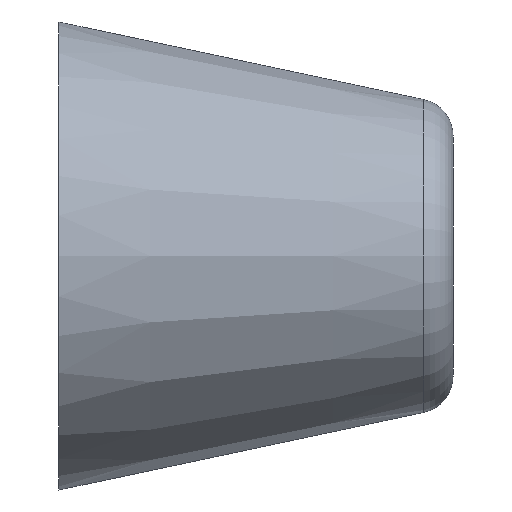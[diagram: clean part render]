
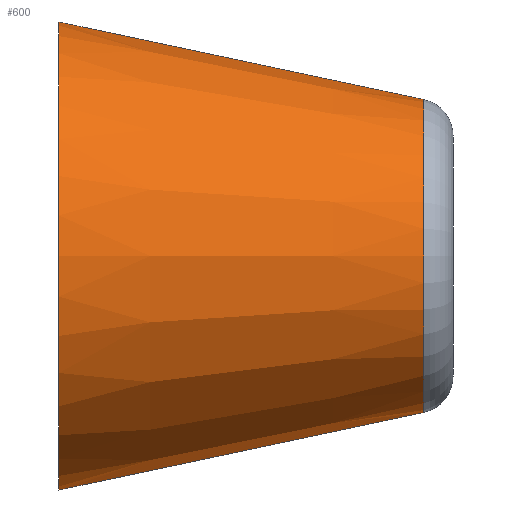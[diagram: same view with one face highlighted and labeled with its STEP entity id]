
A CAD part, left-side view. The second image highlights one B-rep face of the part: STEP entity #600.
In plain terms, the highlighted conical face has half-angle 11.997 degrees and reference radius 6.1 mm.
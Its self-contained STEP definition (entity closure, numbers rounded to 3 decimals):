
#1 = VERTEX_POINT ( 'NONE', #150 ) ;
#14 = AXIS2_PLACEMENT_3D ( 'NONE', #295, #298, #335 ) ;
#78 = DIRECTION ( 'NONE',  ( 0., 0., -1. ) ) ;
#87 = ORIENTED_EDGE ( 'NONE', *, *, #122, .T. ) ;
#88 = EDGE_CURVE ( 'NONE', #147, #237, #171, .T. ) ;
#122 = EDGE_CURVE ( 'NONE', #418, #1, #135, .T. ) ;
#124 = CARTESIAN_POINT ( 'NONE',  ( 0., 0., 6.1 ) ) ;
#135 = LINE ( 'NONE', #124, #231 ) ;
#147 = VERTEX_POINT ( 'NONE', #271 ) ;
#150 = CARTESIAN_POINT ( 'NONE',  ( 0., 16., 9.5 ) ) ;
#171 = LINE ( 'NONE', #319, #453 ) ;
#177 = CIRCLE ( 'NONE', #14, 9.5 ) ;
#205 = ORIENTED_EDGE ( 'NONE', *, *, #309, .T. ) ;
#220 = EDGE_CURVE ( 'NONE', #1, #237, #177, .T. ) ;
#231 = VECTOR ( 'NONE', #513, 1000. ) ;
#237 = VERTEX_POINT ( 'NONE', #491 ) ;
#271 = CARTESIAN_POINT ( 'NONE',  ( 0., 1.188, -6.352 ) ) ;
#287 = ORIENTED_EDGE ( 'NONE', *, *, #220, .T. ) ;
#295 = CARTESIAN_POINT ( 'NONE',  ( 0., 16., 0. ) ) ;
#298 = DIRECTION ( 'NONE',  ( 0., -1., 0. ) ) ;
#300 = CARTESIAN_POINT ( 'NONE',  ( 0., 1.188, 6.352 ) ) ;
#309 = EDGE_CURVE ( 'NONE', #147, #418, #405, .T. ) ;
#319 = CARTESIAN_POINT ( 'NONE',  ( 0., 0., -6.1 ) ) ;
#335 = DIRECTION ( 'NONE',  ( 0., 0., -1. ) ) ;
#376 = FACE_OUTER_BOUND ( 'NONE', #442, .T. ) ;
#400 = CONICAL_SURFACE ( 'NONE', #512, 6.1, 0.209 ) ;
#405 = CIRCLE ( 'NONE', #413, 6.352 ) ;
#413 = AXIS2_PLACEMENT_3D ( 'NONE', #504, #548, #78 ) ;
#418 = VERTEX_POINT ( 'NONE', #300 ) ;
#442 = EDGE_LOOP ( 'NONE', ( #444, #205, #87, #287 ) ) ;
#444 = ORIENTED_EDGE ( 'NONE', *, *, #88, .F. ) ;
#453 = VECTOR ( 'NONE', #556, 1000. ) ;
#491 = CARTESIAN_POINT ( 'NONE',  ( 0., 16., -9.5 ) ) ;
#504 = CARTESIAN_POINT ( 'NONE',  ( 0., 1.188, 0. ) ) ;
#512 = AXIS2_PLACEMENT_3D ( 'NONE', #605, #562, #587 ) ;
#513 = DIRECTION ( 'NONE',  ( 0., 0.978, 0.208 ) ) ;
#548 = DIRECTION ( 'NONE',  ( 0., 1., 0. ) ) ;
#556 = DIRECTION ( 'NONE',  ( 0., 0.978, -0.208 ) ) ;
#562 = DIRECTION ( 'NONE',  ( 0., 1., 0. ) ) ;
#587 = DIRECTION ( 'NONE',  ( 0., 0., 1. ) ) ;
#600 = ADVANCED_FACE ( 'NONE', ( #376 ), #400, .T. ) ;
#605 = CARTESIAN_POINT ( 'NONE',  ( 0., 0., 0. ) ) ;
